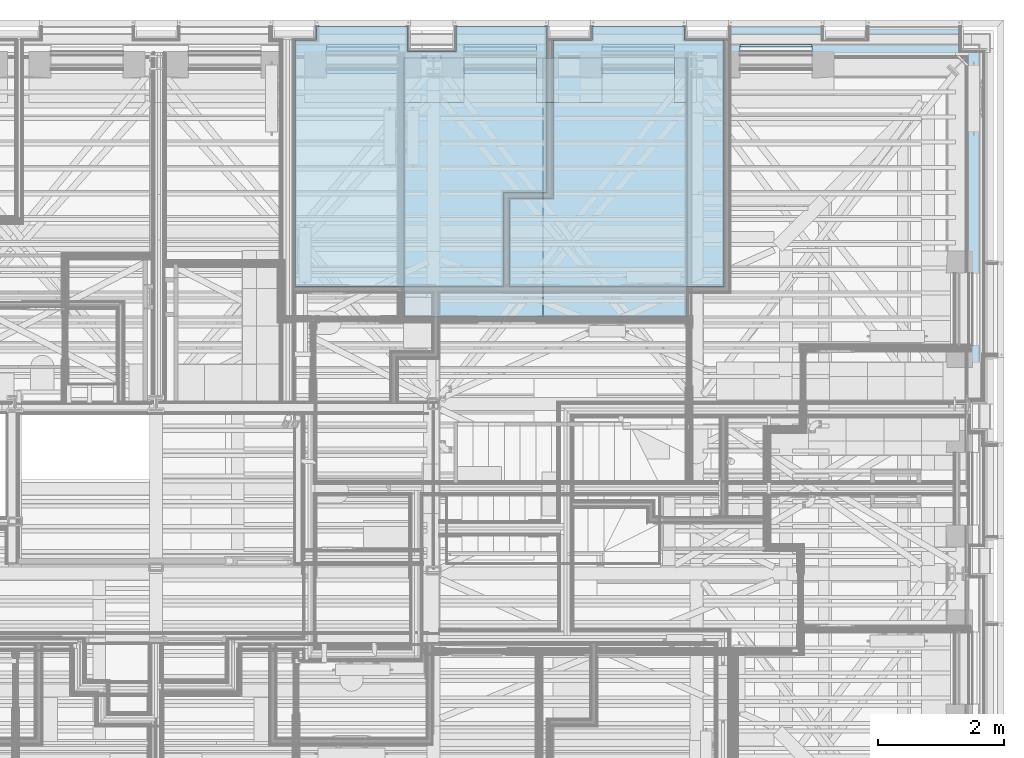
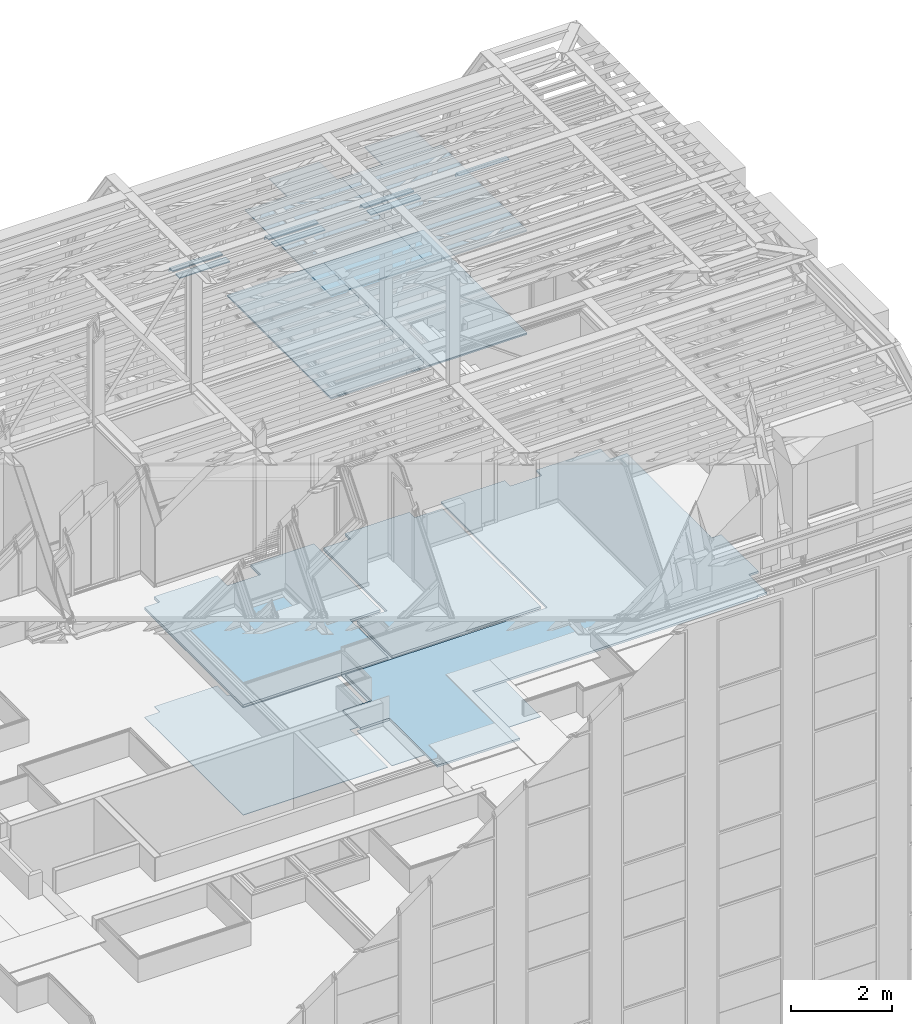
# One storey, part 95 of 183: 25 slabs.
"""IFC2X3 building model written with IfcOpenShell, lengths in metres."""

from ifc_helpers import new_model, entity, si_unit, converted_unit, derived_unit, money_unit, direction, frame, origin_with_axes, place, context, subcontext, project, spatial, faceted_brep, material, type_object, element, save


model = new_model("IFC2X3")

# Units and contexts
model_context = context("Model", 3, precision=1e-05, world=origin_with_axes(), true_north=direction((0.0, 1.0)))
body_context = subcontext(model_context, "Body", "Model", "MODEL_VIEW", scale=1.0)
ifc_project = project(units=[si_unit("LENGTHUNIT", "METRE"), si_unit("AREAUNIT", "SQUARE_METRE"), si_unit("VOLUMEUNIT", "CUBIC_METRE"), si_unit("ABSORBEDDOSEUNIT", "GRAY"), si_unit("AMOUNTOFSUBSTANCEUNIT", "MOLE"), si_unit("DOSEEQUIVALENTUNIT", "SIEVERT"), si_unit("ELECTRICCAPACITANCEUNIT", "FARAD"), si_unit("ELECTRICCHARGEUNIT", "COULOMB"), si_unit("ELECTRICCONDUCTANCEUNIT", "SIEMENS"), si_unit("ELECTRICCURRENTUNIT", "AMPERE"), si_unit("ELECTRICRESISTANCEUNIT", "OHM"), si_unit("ELECTRICVOLTAGEUNIT", "VOLT"), si_unit("ENERGYUNIT", "JOULE"), si_unit("FORCEUNIT", "NEWTON"), si_unit("FREQUENCYUNIT", "HERTZ"), si_unit("ILLUMINANCEUNIT", "LUX"), si_unit("INDUCTANCEUNIT", "HENRY"), si_unit("LUMINOUSFLUXUNIT", "LUMEN"), si_unit("LUMINOUSINTENSITYUNIT", "CANDELA"), si_unit("MAGNETICFLUXDENSITYUNIT", "TESLA"), si_unit("MAGNETICFLUXUNIT", "WEBER"), si_unit("MASSUNIT", "GRAM"), converted_unit("PLANEANGLEUNIT", "degree", entity("IfcReal", 0.0174532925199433), si_unit("PLANEANGLEUNIT", "RADIAN"), dimensions=[0, 0, 0, 0, 0, 0, 0]), si_unit("POWERUNIT", "WATT"), si_unit("PRESSUREUNIT", "PASCAL"), si_unit("RADIOACTIVITYUNIT", "BECQUEREL"), si_unit("SOLIDANGLEUNIT", "STERADIAN"), si_unit("THERMODYNAMICTEMPERATUREUNIT", "KELVIN"), si_unit("TIMEUNIT", "SECOND"), derived_unit("ACCELERATIONUNIT", [(si_unit("LENGTHUNIT", "METRE"), 1), (si_unit("TIMEUNIT", "SECOND"), -2)]), derived_unit("ANGULARVELOCITYUNIT", [(converted_unit("PLANEANGLEUNIT", "degree", entity("IfcReal", 0.0174532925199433), si_unit("PLANEANGLEUNIT", "RADIAN"), dimensions=[0, 0, 0, 0, 0, 0, 0]), 1), (si_unit("TIMEUNIT", "SECOND"), -1)]), derived_unit("CURVATUREUNIT", [(converted_unit("PLANEANGLEUNIT", "degree", entity("IfcReal", 0.0174532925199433), si_unit("PLANEANGLEUNIT", "RADIAN"), dimensions=[0, 0, 0, 0, 0, 0, 0]), 1), (si_unit("LENGTHUNIT", "METRE"), -1)]), derived_unit("DYNAMICVISCOSITYUNIT", [(si_unit("PRESSUREUNIT", "PASCAL"), 1), (si_unit("TIMEUNIT", "SECOND"), 1)]), derived_unit("HEATFLUXDENSITYUNIT", [(si_unit("POWERUNIT", "WATT"), 1), (si_unit("LENGTHUNIT", "METRE"), -2)]), derived_unit("HEATINGVALUEUNIT", [(si_unit("ENERGYUNIT", "JOULE"), 1), (si_unit("MASSUNIT", "GRAM"), -1)]), derived_unit("INTEGERCOUNTRATEUNIT", [(si_unit("TIMEUNIT", "SECOND"), -1)]), derived_unit("IONCONCENTRATIONUNIT", [(si_unit("MASSUNIT", "GRAM"), 1), (si_unit("VOLUMEUNIT", "CUBIC_METRE"), -1)]), derived_unit("ISOTHERMALMOISTURECAPACITYUNIT", [(si_unit("VOLUMEUNIT", "CUBIC_METRE"), 1), (si_unit("MASSUNIT", "GRAM"), -1)]), derived_unit("KINEMATICVISCOSITYUNIT", [(si_unit("AREAUNIT", "SQUARE_METRE"), 1), (si_unit("TIMEUNIT", "SECOND"), -1)]), derived_unit("LINEARFORCEUNIT", [(si_unit("FORCEUNIT", "NEWTON"), 1), (si_unit("LENGTHUNIT", "METRE"), -1)]), derived_unit("LINEARMOMENTUNIT", [(si_unit("FORCEUNIT", "NEWTON"), 1), (si_unit("LENGTHUNIT", "METRE"), -1)]), derived_unit("LINEARSTIFFNESSUNIT", [(si_unit("FORCEUNIT", "NEWTON"), 1), (si_unit("LENGTHUNIT", "METRE"), -1)]), derived_unit("LINEARVELOCITYUNIT", [(si_unit("LENGTHUNIT", "METRE"), 1), (si_unit("TIMEUNIT", "SECOND"), -1)]), derived_unit("LUMINOUSINTENSITYDISTRIBUTIONUNIT", [(si_unit("LUMINOUSINTENSITYUNIT", "CANDELA"), 1), (si_unit("LUMINOUSFLUXUNIT", "LUMEN"), -1)]), derived_unit("MASSDENSITYUNIT", [(si_unit("MASSUNIT", "GRAM"), 1), (si_unit("VOLUMEUNIT", "CUBIC_METRE"), -1)]), derived_unit("MASSFLOWRATEUNIT", [(si_unit("MASSUNIT", "GRAM"), 1), (si_unit("TIMEUNIT", "SECOND"), -1)]), derived_unit("MASSPERLENGTHUNIT", [(si_unit("MASSUNIT", "GRAM"), 1), (si_unit("LENGTHUNIT", "METRE"), -1)]), derived_unit("MODULUSOFELASTICITYUNIT", [(si_unit("FORCEUNIT", "NEWTON"), 1), (si_unit("AREAUNIT", "SQUARE_METRE"), -1)]), derived_unit("MODULUSOFLINEARSUBGRADEREACTIONUNIT", [(si_unit("FORCEUNIT", "NEWTON"), 1), (si_unit("LENGTHUNIT", "METRE"), -2)]), derived_unit("MODULUSOFROTATIONALSUBGRADEREACTIONUNIT", [(si_unit("FORCEUNIT", "NEWTON"), 1), (si_unit("LENGTHUNIT", "METRE"), 1)]), derived_unit("MODULUSOFSUBGRADEREACTIONUNIT", [(si_unit("FORCEUNIT", "NEWTON"), 1), (si_unit("VOLUMEUNIT", "CUBIC_METRE"), -1)]), derived_unit("MOISTUREDIFFUSIVITYUNIT", [(si_unit("VOLUMEUNIT", "CUBIC_METRE"), 1), (si_unit("TIMEUNIT", "SECOND"), -1)]), derived_unit("MOLECULARWEIGHTUNIT", [(si_unit("MASSUNIT", "GRAM"), 1), (si_unit("AMOUNTOFSUBSTANCEUNIT", "MOLE"), -1)]), derived_unit("PLANARFORCEUNIT", [(si_unit("FORCEUNIT", "NEWTON"), 1), (si_unit("LENGTHUNIT", "METRE"), -2)]), derived_unit("ROTATIONALFREQUENCYUNIT", [(si_unit("TIMEUNIT", "SECOND"), -1)]), derived_unit("ROTATIONALMASSUNIT", [(si_unit("MASSUNIT", "GRAM"), 1), (si_unit("LENGTHUNIT", "METRE"), 2)]), derived_unit("ROTATIONALSTIFFNESSUNIT", [(si_unit("FORCEUNIT", "NEWTON"), 1), (si_unit("LENGTHUNIT", "METRE"), 1), (converted_unit("PLANEANGLEUNIT", "degree", entity("IfcReal", 0.0174532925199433), si_unit("PLANEANGLEUNIT", "RADIAN"), dimensions=[0, 0, 0, 0, 0, 0, 0]), -1)]), derived_unit("SECTIONAREAINTEGRALUNIT", [(si_unit("LENGTHUNIT", "METRE"), 5)]), derived_unit("SECTIONMODULUSUNIT", [(si_unit("LENGTHUNIT", "METRE"), 3)]), derived_unit("SHEARMODULUSUNIT", [(si_unit("FORCEUNIT", "NEWTON"), 1), (si_unit("AREAUNIT", "SQUARE_METRE"), -1)]), derived_unit("SOUNDPOWERUNIT", [(si_unit("ENERGYUNIT", "JOULE"), 1), (si_unit("TIMEUNIT", "SECOND"), -1)]), derived_unit("SPECIFICHEATCAPACITYUNIT", [(si_unit("FORCEUNIT", "NEWTON"), 1), (si_unit("MASSUNIT", "GRAM"), -1), (si_unit("THERMODYNAMICTEMPERATUREUNIT", "KELVIN"), -1)]), derived_unit("TEMPERATUREGRADIENTUNIT", [(si_unit("THERMODYNAMICTEMPERATUREUNIT", "KELVIN"), 1), (si_unit("LENGTHUNIT", "METRE"), -1)]), derived_unit("THERMALADMITTANCEUNIT", [(si_unit("POWERUNIT", "WATT"), 1), (si_unit("AREAUNIT", "SQUARE_METRE"), -1), (si_unit("THERMODYNAMICTEMPERATUREUNIT", "KELVIN"), -1)]), derived_unit("THERMALCONDUCTANCEUNIT", [(si_unit("POWERUNIT", "WATT"), 1), (si_unit("LENGTHUNIT", "METRE"), -1), (si_unit("THERMODYNAMICTEMPERATUREUNIT", "KELVIN"), -1)]), derived_unit("THERMALEXPANSIONCOEFFICIENTUNIT", [(si_unit("THERMODYNAMICTEMPERATUREUNIT", "KELVIN"), -1)]), derived_unit("THERMALRESISTANCEUNIT", [(si_unit("AREAUNIT", "SQUARE_METRE"), 1), (si_unit("POWERUNIT", "WATT"), -1)]), derived_unit("THERMALTRANSMITTANCEUNIT", [(si_unit("POWERUNIT", "WATT"), 1), (si_unit("AREAUNIT", "SQUARE_METRE"), -1), (si_unit("THERMODYNAMICTEMPERATUREUNIT", "KELVIN"), -1)]), derived_unit("TORQUEUNIT", [(si_unit("FORCEUNIT", "NEWTON"), 1), (si_unit("LENGTHUNIT", "METRE"), 1)]), derived_unit("VAPORPERMEABILITYUNIT", [(si_unit("MASSUNIT", "GRAM"), 1), (si_unit("TIMEUNIT", "SECOND"), -1)]), derived_unit("VOLUMETRICFLOWRATEUNIT", [(si_unit("VOLUMEUNIT", "CUBIC_METRE"), 1), (si_unit("TIMEUNIT", "SECOND"), -1)]), derived_unit("WARPINGCONSTANTUNIT", [(si_unit("LENGTHUNIT", "METRE"), 6)]), derived_unit("WARPINGMOMENTUNIT", [(si_unit("FORCEUNIT", "NEWTON"), 1), (si_unit("LENGTHUNIT", "METRE"), 2)]), money_unit("GBP")], contexts=[model_context])

# Site, building, storey
site_placement = place(None, origin_with_axes())
site = spatial("IfcSite", under=ifc_project, at=site_placement, Name="Site", CompositionType="ELEMENT")
building_placement = place(site_placement, origin_with_axes())
building = spatial("IfcBuilding", under=site, at=building_placement, Name="Building01", CompositionType="ELEMENT")
storey_placement = place(building_placement, frame((0.0, 0.0, 5.15), z_axis=(0.0, 0.0, 1.0), x_axis=(1.0, 0.0, 0.0)))
storey = spatial("IfcBuildingStorey", under=building, at=storey_placement, Name="1F", CompositionType="ELEMENT", Elevation=5.15)

# Slabs
ifc_material_1 = material(Name="A_BSUK_Carpet-Pile")
slab_type_1 = type_object("IfcSlabType", Name="A-FloorsSlabs A_BSUK_Slabs", PredefinedType="FLOOR")
placement = place(storey_placement, frame((0.0, 0.0, -5.15), z_axis=(0.0, 0.0, 1.0), x_axis=(1.0, 0.0, 0.0)))
element("IfcSlab", 1, at=placement, inside=storey, type_object=slab_type_1, material=ifc_material_1, Name="A-FloorsSlabs A_BSUK_Slabs", ObjectType="CompoundSlabLeaf", context=body_context, shape_type="Brep", body=[
    faceted_brep([(15.708132, 10.665, 5.153), (15.708132, 10.665, 5.165), (15.708132, 14.582, 5.165), (15.708132, 14.582, 5.153), (19.025284, 10.665, 5.153), (19.025284, 10.665, 5.165), (19.025284, 12.159378, 5.153), (19.025284, 12.159378, 5.165), (19.715, 12.159378, 5.153), (19.715, 12.159378, 5.165), (19.715, 14.8, 5.153), (19.715, 14.8, 5.165), (18.268, 14.8, 5.153), (18.268, 14.8, 5.165), (18.268, 14.402, 5.153), (18.268, 14.402, 5.165), (17.502, 14.402, 5.153), (17.502, 14.402, 5.165), (17.502, 14.8, 5.153), (17.502, 14.8, 5.165), (16.055, 14.8, 5.153), (16.055, 14.8, 5.165), (16.055, 14.582, 5.153), (16.055, 14.582, 5.165)], [[[0, 1, 2, 3]], [[4, 5, 1, 0]], [[6, 7, 5, 4]], [[8, 9, 7, 6]], [[10, 11, 9, 8]], [[12, 13, 11, 10]], [[14, 15, 13, 12]], [[16, 17, 15, 14]], [[18, 19, 17, 16]], [[20, 21, 19, 18]], [[22, 23, 21, 20]], [[3, 2, 23, 22]], [[1, 5, 7, 9, 11, 13, 15, 17, 19, 21, 23, 2]], [[3, 22, 20, 18, 16, 14, 12, 10, 8, 6, 4, 0]]]),
])
element("IfcSlab", 2, at=placement, inside=storey, type_object=slab_type_1, material=ifc_material_1, Name="A-FloorsSlabs A_BSUK_Slabs", ObjectType="CompoundSlabLeaf", context=body_context, shape_type="Brep", body=[
    faceted_brep([(19.81, 12.064378, 5.153), (19.81, 12.064378, 5.165), (19.81, 14.582, 5.165), (19.81, 14.582, 5.153), (19.120284, 12.064378, 5.153), (19.120284, 12.064378, 5.165), (19.120284, 10.665, 5.153), (19.120284, 10.665, 5.165), (22.53, 10.665, 5.153), (22.53, 10.665, 5.165), (22.53, 14.582, 5.153), (22.53, 14.582, 5.165), (21.905, 14.582, 5.153), (21.905, 14.582, 5.165), (21.905, 14.8, 5.153), (21.905, 14.8, 5.165), (20.435, 14.8, 5.153), (20.435, 14.8, 5.165), (20.435, 14.582, 5.153), (20.435, 14.582, 5.165)], [[[0, 1, 2, 3]], [[4, 5, 1, 0]], [[6, 7, 5, 4]], [[8, 9, 7, 6]], [[10, 11, 9, 8]], [[12, 13, 11, 10]], [[14, 15, 13, 12]], [[16, 17, 15, 14]], [[18, 19, 17, 16]], [[3, 2, 19, 18]], [[1, 5, 7, 9, 11, 13, 15, 17, 19, 2]], [[3, 18, 16, 14, 12, 10, 8, 6, 4, 0]]]),
])
ifc_material_2 = material(Name="A_BSUK_CeilingSoffitFinishes_Suspended")
element("IfcSlab", 3, at=placement, inside=storey, type_object=slab_type_1, material=ifc_material_2, Name="A-FloorsSlabs A_BSUK_Slabs", ObjectType="CompoundSlabLeaf", context=body_context, shape_type="Brep", body=[
    faceted_brep([(15.708132, 10.665, 7.765), (15.708132, 10.665, 7.78), (15.708132, 14.582, 7.78), (15.708132, 14.582, 7.765), (19.025284, 10.665, 7.765), (19.025284, 10.665, 7.78), (19.025284, 12.159378, 7.765), (19.025284, 12.159378, 7.78), (19.715, 12.159378, 7.765), (19.715, 12.159378, 7.78), (19.715, 14.8, 7.765), (19.715, 14.8, 7.78), (18.268, 14.8, 7.765), (18.268, 14.8, 7.78), (18.268, 14.402, 7.765), (18.268, 14.402, 7.78), (17.502, 14.402, 7.765), (17.502, 14.402, 7.78), (17.502, 14.8, 7.765), (17.502, 14.8, 7.78), (16.055, 14.8, 7.765), (16.055, 14.8, 7.78), (16.055, 14.582, 7.765), (16.055, 14.582, 7.78)], [[[0, 1, 2, 3]], [[4, 5, 1, 0]], [[6, 7, 5, 4]], [[8, 9, 7, 6]], [[10, 11, 9, 8]], [[12, 13, 11, 10]], [[14, 15, 13, 12]], [[16, 17, 15, 14]], [[18, 19, 17, 16]], [[20, 21, 19, 18]], [[22, 23, 21, 20]], [[3, 2, 23, 22]], [[1, 5, 7, 9, 11, 13, 15, 17, 19, 21, 23, 2]], [[3, 22, 20, 18, 16, 14, 12, 10, 8, 6, 4, 0]]]),
])
element("IfcSlab", 4, at=placement, inside=storey, type_object=slab_type_1, material=ifc_material_2, Name="A-FloorsSlabs A_BSUK_Slabs", ObjectType="CompoundSlabLeaf", context=body_context, shape_type="Brep", body=[
    faceted_brep([(19.81, 12.064378, 7.765), (19.81, 12.064378, 7.78), (19.81, 14.582, 7.78), (19.81, 14.582, 7.765), (19.120284, 12.064378, 7.765), (19.120284, 12.064378, 7.78), (19.120284, 10.665, 7.765), (19.120284, 10.665, 7.78), (22.53, 10.665, 7.765), (22.53, 10.665, 7.78), (22.53, 14.582, 7.765), (22.53, 14.582, 7.78), (21.905, 14.582, 7.765), (21.905, 14.582, 7.78), (21.905, 14.8, 7.765), (21.905, 14.8, 7.78), (20.435, 14.8, 7.765), (20.435, 14.8, 7.78), (20.435, 14.582, 7.765), (20.435, 14.582, 7.78)], [[[0, 1, 2, 3]], [[4, 5, 1, 0]], [[6, 7, 5, 4]], [[8, 9, 7, 6]], [[10, 11, 9, 8]], [[12, 13, 11, 10]], [[14, 15, 13, 12]], [[16, 17, 15, 14]], [[18, 19, 17, 16]], [[3, 2, 19, 18]], [[1, 5, 7, 9, 11, 13, 15, 17, 19, 2]], [[3, 18, 16, 14, 12, 10, 8, 6, 4, 0]]]),
])
ifc_material_3 = material(Name="A_BSUK_Steel_Miscellaneous")
slab_5_placement = place(storey_placement, frame((23.929976, 14.324696, 10.802498), z_axis=(0.0, 0.0, 1.0), x_axis=(1.0, 0.0, 0.0)))
element("IfcSlab", 5, at=slab_5_placement, inside=storey, type_object=slab_type_1, material=ifc_material_3, Name="A-FloorsSlabs A_BSUK_Slabs", ObjectType="A-FloorsSlabs A_BSUK_Slabs", context=body_context, shape_type="Brep", body=[
    faceted_brep([(0.0, 0.0, 0.007502), (-1.15, 0.0, 0.007502), (-1.15, 0.0, 0.0), (0.0, 0.0, 0.0), (0.0, 0.001, 0.007502), (-1.15, 0.001, 0.007502), (0.0, 0.0025, 0.002414), (-1.15, 0.0025, 0.002414), (0.0, 0.144228, -0.002556), (-1.15, 0.144228, -0.002556), (0.0, 0.183199, -0.122498), (-1.15, 0.183199, -0.122498), (0.0, 0.183199, -0.127498), (-1.15, 0.183199, -0.127498), (0.0, 0.180699, -0.127498), (-1.15, 0.180699, -0.127498), (0.0, 0.180699, -0.122894), (-1.15, 0.180699, -0.122894), (0.0, 0.142391, -0.004993), (-1.15, 0.142391, -0.004993)], [[[0, 1, 2, 3]], [[4, 5, 1, 0]], [[6, 7, 5, 4]], [[8, 9, 7, 6]], [[10, 11, 9, 8]], [[12, 13, 11, 10]], [[14, 15, 13, 12]], [[16, 17, 15, 14]], [[18, 19, 17, 16]], [[3, 2, 19, 18]], [[1, 5, 7, 9, 11, 13, 15, 17, 19, 2]], [[3, 18, 16, 14, 12, 10, 8, 6, 4, 0]]]),
])
ifc_material_4 = material(Name="A_BSUK_Timber_Miscellaneous")
slab_6_placement = place(storey_placement, frame((21.740024, 14.324696, 10.78), z_axis=(0.0, 0.0, 1.0), x_axis=(1.0, 0.0, 0.0)))
element("IfcSlab", 6, at=slab_6_placement, inside=storey, type_object=slab_type_1, material=ifc_material_4, Name="A-FloorsSlabs A_BSUK_Slabs", ObjectType="A-FloorsSlabs A_BSUK_Slabs", context=body_context, shape_type="Brep", body=[
    faceted_brep([(0.0, 0.0, 0.022498), (-1.15, 0.0, 0.022498), (-1.15, 0.0, 0.0), (0.0, 0.0, 0.0), (0.0, 0.142391, 0.017505), (-1.15, 0.142391, 0.017505), (0.0, 0.148079, 0.0), (-1.15, 0.148079, 0.0)], [[[0, 1, 2, 3]], [[4, 5, 1, 0]], [[6, 7, 5, 4]], [[3, 2, 7, 6]], [[1, 5, 7, 2]], [[3, 6, 4, 0]]]),
])
slab_7_placement = place(storey_placement, frame((21.740024, 14.324696, 10.802498), z_axis=(0.0, 0.0, 1.0), x_axis=(1.0, 0.0, 0.0)))
element("IfcSlab", 7, at=slab_7_placement, inside=storey, type_object=slab_type_1, material=ifc_material_3, Name="A-FloorsSlabs A_BSUK_Slabs", ObjectType="A-FloorsSlabs A_BSUK_Slabs", context=body_context, shape_type="Brep", body=[
    faceted_brep([(0.0, 0.0, 0.007502), (-1.15, 0.0, 0.007502), (-1.15, 0.0, 0.0), (0.0, 0.0, 0.0), (0.0, 0.001, 0.007502), (-1.15, 0.001, 0.007502), (0.0, 0.0025, 0.002414), (-1.15, 0.0025, 0.002414), (0.0, 0.144228, -0.002556), (-1.15, 0.144228, -0.002556), (0.0, 0.183199, -0.122498), (-1.15, 0.183199, -0.122498), (0.0, 0.183199, -0.127498), (-1.15, 0.183199, -0.127498), (0.0, 0.180699, -0.127498), (-1.15, 0.180699, -0.127498), (0.0, 0.180699, -0.122894), (-1.15, 0.180699, -0.122894), (0.0, 0.142391, -0.004993), (-1.15, 0.142391, -0.004993)], [[[0, 1, 2, 3]], [[4, 5, 1, 0]], [[6, 7, 5, 4]], [[8, 9, 7, 6]], [[10, 11, 9, 8]], [[12, 13, 11, 10]], [[14, 15, 13, 12]], [[16, 17, 15, 14]], [[18, 19, 17, 16]], [[3, 2, 19, 18]], [[1, 5, 7, 9, 11, 13, 15, 17, 19, 2]], [[3, 18, 16, 14, 12, 10, 8, 6, 4, 0]]]),
])
slab_8_placement = place(storey_placement, frame((19.550024, 14.324696, 10.78), z_axis=(0.0, 0.0, 1.0), x_axis=(1.0, 0.0, 0.0)))
element("IfcSlab", 8, at=slab_8_placement, inside=storey, type_object=slab_type_1, material=ifc_material_4, Name="A-FloorsSlabs A_BSUK_Slabs", ObjectType="A-FloorsSlabs A_BSUK_Slabs", context=body_context, shape_type="Brep", body=[
    faceted_brep([(0.0, 0.0, 0.022498), (-1.15, 0.0, 0.022498), (-1.15, 0.0, 0.0), (0.0, 0.0, 0.0), (0.0, 0.142391, 0.017505), (-1.15, 0.142391, 0.017505), (0.0, 0.148079, 0.0), (-1.15, 0.148079, 0.0)], [[[0, 1, 2, 3]], [[4, 5, 1, 0]], [[6, 7, 5, 4]], [[3, 2, 7, 6]], [[1, 5, 7, 2]], [[3, 6, 4, 0]]]),
])
slab_9_placement = place(storey_placement, frame((19.550024, 14.324696, 10.802498), z_axis=(0.0, 0.0, 1.0), x_axis=(1.0, 0.0, 0.0)))
element("IfcSlab", 9, at=slab_9_placement, inside=storey, type_object=slab_type_1, material=ifc_material_3, Name="A-FloorsSlabs A_BSUK_Slabs", ObjectType="A-FloorsSlabs A_BSUK_Slabs", context=body_context, shape_type="Brep", body=[
    faceted_brep([(0.0, 0.0, 0.007502), (-1.15, 0.0, 0.007502), (-1.15, 0.0, 0.0), (0.0, 0.0, 0.0), (0.0, 0.001, 0.007502), (-1.15, 0.001, 0.007502), (0.0, 0.0025, 0.002414), (-1.15, 0.0025, 0.002414), (0.0, 0.144228, -0.002556), (-1.15, 0.144228, -0.002556), (0.0, 0.183199, -0.122498), (-1.15, 0.183199, -0.122498), (0.0, 0.183199, -0.127498), (-1.15, 0.183199, -0.127498), (0.0, 0.180699, -0.127498), (-1.15, 0.180699, -0.127498), (0.0, 0.180699, -0.122894), (-1.15, 0.180699, -0.122894), (0.0, 0.142391, -0.004993), (-1.15, 0.142391, -0.004993)], [[[0, 1, 2, 3]], [[4, 5, 1, 0]], [[6, 7, 5, 4]], [[8, 9, 7, 6]], [[10, 11, 9, 8]], [[12, 13, 11, 10]], [[14, 15, 13, 12]], [[16, 17, 15, 14]], [[18, 19, 17, 16]], [[3, 2, 19, 18]], [[1, 5, 7, 9, 11, 13, 15, 17, 19, 2]], [[3, 18, 16, 14, 12, 10, 8, 6, 4, 0]]]),
])
slab_10_placement = place(storey_placement, frame((17.360024, 14.324696, 10.78), z_axis=(0.0, 0.0, 1.0), x_axis=(1.0, 0.0, 0.0)))
element("IfcSlab", 10, at=slab_10_placement, inside=storey, type_object=slab_type_1, material=ifc_material_4, Name="A-FloorsSlabs A_BSUK_Slabs", ObjectType="A-FloorsSlabs A_BSUK_Slabs", context=body_context, shape_type="Brep", body=[
    faceted_brep([(0.0, 0.0, 0.022498), (-1.15, 0.0, 0.022498), (-1.15, 0.0, 0.0), (0.0, 0.0, 0.0), (0.0, 0.142391, 0.017505), (-1.15, 0.142391, 0.017505), (0.0, 0.148079, 0.0), (-1.15, 0.148079, 0.0)], [[[0, 1, 2, 3]], [[4, 5, 1, 0]], [[6, 7, 5, 4]], [[3, 2, 7, 6]], [[1, 5, 7, 2]], [[3, 6, 4, 0]]]),
])
slab_11_placement = place(storey_placement, frame((17.360024, 14.324696, 10.802498), z_axis=(0.0, 0.0, 1.0), x_axis=(1.0, 0.0, 0.0)))
element("IfcSlab", 11, at=slab_11_placement, inside=storey, type_object=slab_type_1, material=ifc_material_3, Name="A-FloorsSlabs A_BSUK_Slabs", ObjectType="A-FloorsSlabs A_BSUK_Slabs", context=body_context, shape_type="Brep", body=[
    faceted_brep([(0.0, 0.0, 0.007502), (-1.15, 0.0, 0.007502), (-1.15, 0.0, 0.0), (0.0, 0.0, 0.0), (0.0, 0.001, 0.007502), (-1.15, 0.001, 0.007502), (0.0, 0.0025, 0.002414), (-1.15, 0.0025, 0.002414), (0.0, 0.144228, -0.002556), (-1.15, 0.144228, -0.002556), (0.0, 0.183199, -0.122498), (-1.15, 0.183199, -0.122498), (0.0, 0.183199, -0.127498), (-1.15, 0.183199, -0.127498), (0.0, 0.180699, -0.127498), (-1.15, 0.180699, -0.127498), (0.0, 0.180699, -0.122894), (-1.15, 0.180699, -0.122894), (0.0, 0.142391, -0.004993), (-1.15, 0.142391, -0.004993)], [[[0, 1, 2, 3]], [[4, 5, 1, 0]], [[6, 7, 5, 4]], [[8, 9, 7, 6]], [[10, 11, 9, 8]], [[12, 13, 11, 10]], [[14, 15, 13, 12]], [[16, 17, 15, 14]], [[18, 19, 17, 16]], [[3, 2, 19, 18]], [[1, 5, 7, 9, 11, 13, 15, 17, 19, 2]], [[3, 18, 16, 14, 12, 10, 8, 6, 4, 0]]]),
])
element("IfcSlab", 12, at=placement, inside=storey, type_object=slab_type_1, material=ifc_material_2, Name="A-FloorsSlabs A_BSUK_Slabs", ObjectType="CompoundSlabLeaf", context=body_context, shape_type="Brep", body=[
    faceted_brep([(17.439976, 10.179939, 17.423), (17.439976, 10.179939, 17.438), (17.439976, 13.587598, 17.438), (17.439976, 13.587598, 17.423), (19.649976, 10.179939, 17.423), (19.649976, 10.179939, 17.438), (19.649976, 13.587598, 17.423), (19.649976, 13.587598, 17.438), (19.549976, 13.587598, 17.423), (19.549976, 13.587598, 17.438), (19.549976, 14.300061, 17.423), (19.549976, 14.300061, 17.438), (18.400024, 14.300061, 17.423), (18.400024, 14.300061, 17.438), (18.400024, 13.587598, 17.423), (18.400024, 13.587598, 17.438)], [[[0, 1, 2, 3]], [[4, 5, 1, 0]], [[6, 7, 5, 4]], [[8, 9, 7, 6]], [[10, 11, 9, 8]], [[12, 13, 11, 10]], [[14, 15, 13, 12]], [[3, 2, 15, 14]], [[1, 5, 7, 9, 11, 13, 15, 2]], [[3, 14, 12, 10, 8, 6, 4, 0]]]),
])
element("IfcSlab", 13, at=placement, inside=storey, type_object=slab_type_1, material=ifc_material_2, Name="A-FloorsSlabs A_BSUK_Slabs", ObjectType="CompoundSlabLeaf", context=body_context, shape_type="Brep", body=[
    faceted_brep([(19.649976, 10.179939, 17.423), (19.649976, 10.179939, 17.438), (19.649976, 13.587598, 17.438), (19.649976, 13.587598, 17.423), (21.939976, 10.179939, 17.423), (21.939976, 10.179939, 17.438), (21.939976, 13.587598, 17.423), (21.939976, 13.587598, 17.438), (21.739976, 13.587598, 17.423), (21.739976, 13.587598, 17.438), (21.739976, 14.300061, 17.423), (21.739976, 14.300061, 17.438), (20.590024, 14.300061, 17.423), (20.590024, 14.300061, 17.438), (20.590024, 13.587598, 17.423), (20.590024, 13.587598, 17.438)], [[[0, 1, 2, 3]], [[4, 5, 1, 0]], [[6, 7, 5, 4]], [[8, 9, 7, 6]], [[10, 11, 9, 8]], [[12, 13, 11, 10]], [[14, 15, 13, 12]], [[3, 2, 15, 14]], [[1, 5, 7, 9, 11, 13, 15, 2]], [[3, 14, 12, 10, 8, 6, 4, 0]]]),
])
ifc_material_5 = material(Name="A_BSUK_ExpandedPolystyreneBoards")
element("IfcSlab", 14, at=placement, inside=storey, type_object=slab_type_1, material=ifc_material_5, Name="A-FloorsSlabs A_BSUK_Slabs", ObjectType="CompoundSlabLeaf", context=body_context, shape_type="Brep", body=[
    faceted_brep([(17.439976, 10.179939, 14.92), (17.439976, 10.179939, 14.952), (17.439976, 14.2962, 14.952), (17.439976, 14.2962, 14.92), (19.649976, 10.179939, 14.92), (19.649976, 10.179939, 14.952), (19.649976, 14.2962, 14.92), (19.649976, 14.2962, 14.952), (19.549976, 14.2962, 14.92), (19.549976, 14.2962, 14.952), (18.400024, 14.2962, 14.92), (18.400024, 14.2962, 14.952)], [[[0, 1, 2, 3]], [[4, 5, 1, 0]], [[6, 7, 5, 4]], [[8, 9, 7, 6]], [[10, 11, 9, 8]], [[3, 2, 11, 10]], [[1, 5, 7, 9, 11, 2]], [[3, 10, 8, 6, 4, 0]]]),
])
element("IfcSlab", 15, at=placement, inside=storey, type_object=slab_type_1, material=ifc_material_5, Name="A-FloorsSlabs A_BSUK_Slabs", ObjectType="CompoundSlabLeaf", context=body_context, shape_type="Brep", body=[
    faceted_brep([(19.649976, 10.179939, 14.92), (19.649976, 10.179939, 14.952), (19.649976, 14.2962, 14.952), (19.649976, 14.2962, 14.92), (21.939976, 10.179939, 14.92), (21.939976, 10.179939, 14.952), (21.939976, 14.2962, 14.92), (21.939976, 14.2962, 14.952), (21.739976, 14.2962, 14.92), (21.739976, 14.2962, 14.952), (20.590024, 14.2962, 14.92), (20.590024, 14.2962, 14.952)], [[[0, 1, 2, 3]], [[4, 5, 1, 0]], [[6, 7, 5, 4]], [[8, 9, 7, 6]], [[10, 11, 9, 8]], [[3, 2, 11, 10]], [[1, 5, 7, 9, 11, 2]], [[3, 10, 8, 6, 4, 0]]]),
])
element("IfcSlab", 16, at=placement, inside=storey, type_object=slab_type_1, material=ifc_material_4, Name="A-FloorsSlabs A_BSUK_Slabs", ObjectType="CompoundSlabLeaf", context=body_context, shape_type="Brep", body=[
    faceted_brep([(21.740024, 14.224661, 15.93), (21.740024, 14.224661, 15.955), (21.740024, 14.050061, 15.955), (21.740024, 14.050061, 15.93), (20.590024, 14.224661, 15.93), (20.590024, 14.224661, 15.955), (20.590024, 14.050062, 15.93), (20.590024, 14.050062, 15.955)], [[[0, 1, 2, 3]], [[4, 5, 1, 0]], [[6, 7, 5, 4]], [[3, 2, 7, 6]], [[1, 5, 7, 2]], [[3, 6, 4, 0]]]),
])
element("IfcSlab", 17, at=placement, inside=storey, type_object=slab_type_1, material=ifc_material_4, Name="A-FloorsSlabs A_BSUK_Slabs", ObjectType="CompoundSlabLeaf", context=body_context, shape_type="Brep", body=[
    faceted_brep([(19.550024, 14.224661, 15.93), (19.550024, 14.224661, 15.955), (19.550024, 14.050061, 15.955), (19.550024, 14.050061, 15.93), (18.400024, 14.224661, 15.93), (18.400024, 14.224661, 15.955), (18.400024, 14.050062, 15.93), (18.400024, 14.050062, 15.955)], [[[0, 1, 2, 3]], [[4, 5, 1, 0]], [[6, 7, 5, 4]], [[3, 2, 7, 6]], [[1, 5, 7, 2]], [[3, 6, 4, 0]]]),
])
element("IfcSlab", 18, at=placement, inside=storey, type_object=slab_type_1, material=ifc_material_4, Name="A-FloorsSlabs A_BSUK_Slabs", ObjectType="CompoundSlabLeaf", context=body_context, shape_type="Brep", body=[
    faceted_brep([(17.360024, 14.224661, 15.93), (17.360024, 14.224661, 15.955), (17.360024, 14.050061, 15.955), (17.360024, 14.050061, 15.93), (16.210024, 14.224661, 15.93), (16.210024, 14.224661, 15.955), (16.210024, 14.050062, 15.93), (16.210024, 14.050062, 15.955)], [[[0, 1, 2, 3]], [[4, 5, 1, 0]], [[6, 7, 5, 4]], [[3, 2, 7, 6]], [[1, 5, 7, 2]], [[3, 6, 4, 0]]]),
])
element("IfcSlab", 19, at=placement, inside=storey, type_object=slab_type_1, material=ifc_material_2, Name="A-FloorsSlabs A_BSUK_Slabs", ObjectType="CompoundSlabLeaf", context=body_context, shape_type="Brep", body=[
    faceted_brep([(17.439976, 10.179939, 17.438), (17.439976, 10.179939, 17.453), (17.439976, 13.587598, 17.453), (17.439976, 13.587598, 17.438), (19.649976, 10.179939, 17.438), (19.649976, 10.179939, 17.453), (19.649976, 13.587598, 17.438), (19.649976, 13.587598, 17.453), (19.549976, 13.587598, 17.438), (19.549976, 13.587598, 17.453), (19.549976, 14.300061, 17.438), (19.549976, 14.300061, 17.453), (18.400024, 14.300061, 17.438), (18.400024, 14.300061, 17.453), (18.400024, 13.587598, 17.438), (18.400024, 13.587598, 17.453)], [[[0, 1, 2, 3]], [[4, 5, 1, 0]], [[6, 7, 5, 4]], [[8, 9, 7, 6]], [[10, 11, 9, 8]], [[12, 13, 11, 10]], [[14, 15, 13, 12]], [[3, 2, 15, 14]], [[1, 5, 7, 9, 11, 13, 15, 2]], [[3, 14, 12, 10, 8, 6, 4, 0]]]),
])
element("IfcSlab", 20, at=placement, inside=storey, type_object=slab_type_1, material=ifc_material_2, Name="A-FloorsSlabs A_BSUK_Slabs", ObjectType="CompoundSlabLeaf", context=body_context, shape_type="Brep", body=[
    faceted_brep([(19.649976, 10.179939, 17.438), (19.649976, 10.179939, 17.453), (19.649976, 13.587598, 17.453), (19.649976, 13.587598, 17.438), (21.939976, 10.179939, 17.438), (21.939976, 10.179939, 17.453), (21.939976, 13.587598, 17.438), (21.939976, 13.587598, 17.453), (21.739976, 13.587598, 17.438), (21.739976, 13.587598, 17.453), (21.739976, 14.300061, 17.438), (21.739976, 14.300061, 17.453), (20.590024, 14.300061, 17.438), (20.590024, 14.300061, 17.453), (20.590024, 13.587598, 17.438), (20.590024, 13.587598, 17.453)], [[[0, 1, 2, 3]], [[4, 5, 1, 0]], [[6, 7, 5, 4]], [[8, 9, 7, 6]], [[10, 11, 9, 8]], [[12, 13, 11, 10]], [[14, 15, 13, 12]], [[3, 2, 15, 14]], [[1, 5, 7, 9, 11, 13, 15, 2]], [[3, 14, 12, 10, 8, 6, 4, 0]]]),
])
slab_type_2 = type_object("IfcSlabType", Name="A-FloorsSlabs A_BSUK_ExpandedPolystyreneBoards", PredefinedType="FLOOR")
element("IfcSlab", 21, at=placement, inside=storey, type_object=slab_type_2, material=ifc_material_5, Name="A-FloorsSlabs A_BSUK_ExpandedPolystyreneBoards", ObjectType="CompoundSlabLeaf", context=body_context, shape_type="Brep", body=[
    faceted_brep([(18.395, 6.93, 7.78), (18.395, 6.93, 7.83), (18.0, 6.93, 7.83), (18.0, 6.93, 7.78), (19.395, 6.93, 7.78), (19.395, 6.93, 7.83), (19.897661, 6.93, 7.78), (19.897661, 6.93, 7.83), (19.897661, 8.82, 7.78), (19.897661, 8.82, 7.83), (26.432, 8.82, 7.78), (26.432, 8.82, 7.83), (26.432, 8.848, 7.78), (26.432, 8.848, 7.83), (26.662, 8.848, 7.78), (26.662, 8.848, 7.83), (26.662, 9.56218, 7.78), (26.662, 9.56218, 7.83), (26.88, 9.56218, 7.78), (26.88, 9.56218, 7.83), (26.88, 11.03218, 7.78), (26.88, 11.03218, 7.83), (26.662, 11.03218, 7.78), (26.662, 11.03218, 7.83), (26.662, 14.402, 7.78), (26.662, 14.402, 7.83), (26.285, 14.402, 7.78), (26.285, 14.402, 7.83), (26.285, 14.8, 7.78), (26.285, 14.8, 7.83), (24.815, 14.8, 7.78), (24.815, 14.8, 7.83), (24.815, 14.582, 7.78), (24.815, 14.582, 7.83), (24.095, 14.582, 7.78), (24.095, 14.582, 7.83), (24.095, 14.8, 7.78), (24.095, 14.8, 7.83), (22.625, 14.8, 7.78), (22.625, 14.8, 7.83), (22.625, 10.57, 7.78), (22.625, 10.57, 7.83), (19.891284, 10.57, 7.78), (19.891284, 10.57, 7.83), (19.044398, 10.57, 7.78), (19.044398, 10.57, 7.83), (18.0, 10.57, 7.78), (18.0, 10.57, 7.83), (18.0, 9.525, 7.78), (18.0, 9.525, 7.83), (17.333132, 9.525, 7.78), (17.333132, 9.525, 7.83), (17.333132, 8.82, 7.78), (17.333132, 8.82, 7.83), (18.0, 8.82, 7.78), (18.0, 8.82, 7.83), (18.0, 7.82088, 7.78), (18.0, 7.82088, 7.83), (18.0, 7.02888, 7.78), (18.0, 7.02888, 7.83)], [[[0, 1, 2, 3]], [[4, 5, 1, 0]], [[6, 7, 5, 4]], [[8, 9, 7, 6]], [[10, 11, 9, 8]], [[12, 13, 11, 10]], [[14, 15, 13, 12]], [[16, 17, 15, 14]], [[18, 19, 17, 16]], [[20, 21, 19, 18]], [[22, 23, 21, 20]], [[24, 25, 23, 22]], [[26, 27, 25, 24]], [[28, 29, 27, 26]], [[30, 31, 29, 28]], [[32, 33, 31, 30]], [[34, 35, 33, 32]], [[36, 37, 35, 34]], [[38, 39, 37, 36]], [[40, 41, 39, 38]], [[42, 43, 41, 40]], [[44, 45, 43, 42]], [[46, 47, 45, 44]], [[48, 49, 47, 46]], [[50, 51, 49, 48]], [[52, 53, 51, 50]], [[54, 55, 53, 52]], [[56, 57, 55, 54]], [[58, 59, 57, 56]], [[3, 2, 59, 58]], [[1, 5, 7, 9, 11, 13, 15, 17, 19, 21, 23, 25, 27, 29, 31, 33, 35, 37, 39, 41, 43, 45, 47, 49, 51, 53, 55, 57, 59, 2]], [[3, 58, 56, 54, 52, 50, 48, 46, 44, 42, 40, 38, 36, 34, 32, 30, 28, 26, 24, 22, 20, 18, 16, 14, 12, 10, 8, 6, 4, 0]]]),
])
element("IfcSlab", 22, at=placement, inside=storey, type_object=slab_type_2, material=ifc_material_5, Name="A-FloorsSlabs A_BSUK_ExpandedPolystyreneBoards", ObjectType="CompoundSlabLeaf", context=body_context, shape_type="Brep", body=[
    faceted_brep([(15.708132, 10.665, 7.78), (15.708132, 10.665, 7.83), (15.708132, 14.582, 7.83), (15.708132, 14.582, 7.78), (19.025284, 10.665, 7.78), (19.025284, 10.665, 7.83), (19.025284, 12.159378, 7.78), (19.025284, 12.159378, 7.83), (19.715, 12.159378, 7.78), (19.715, 12.159378, 7.83), (19.715, 14.8, 7.78), (19.715, 14.8, 7.83), (18.268, 14.8, 7.78), (18.268, 14.8, 7.83), (18.268, 14.402, 7.78), (18.268, 14.402, 7.83), (17.502, 14.402, 7.78), (17.502, 14.402, 7.83), (17.502, 14.8, 7.78), (17.502, 14.8, 7.83), (16.055, 14.8, 7.78), (16.055, 14.8, 7.83), (16.055, 14.582, 7.78), (16.055, 14.582, 7.83)], [[[0, 1, 2, 3]], [[4, 5, 1, 0]], [[6, 7, 5, 4]], [[8, 9, 7, 6]], [[10, 11, 9, 8]], [[12, 13, 11, 10]], [[14, 15, 13, 12]], [[16, 17, 15, 14]], [[18, 19, 17, 16]], [[20, 21, 19, 18]], [[22, 23, 21, 20]], [[3, 2, 23, 22]], [[1, 5, 7, 9, 11, 13, 15, 17, 19, 21, 23, 2]], [[3, 22, 20, 18, 16, 14, 12, 10, 8, 6, 4, 0]]]),
])
element("IfcSlab", 23, at=placement, inside=storey, type_object=slab_type_2, material=ifc_material_5, Name="A-FloorsSlabs A_BSUK_ExpandedPolystyreneBoards", ObjectType="CompoundSlabLeaf", context=body_context, shape_type="Brep", body=[
    faceted_brep([(19.81, 12.064378, 7.78), (19.81, 12.064378, 7.83), (19.81, 14.582, 7.83), (19.81, 14.582, 7.78), (19.120284, 12.064378, 7.78), (19.120284, 12.064378, 7.83), (19.120284, 10.665, 7.78), (19.120284, 10.665, 7.83), (22.53, 10.665, 7.78), (22.53, 10.665, 7.83), (22.53, 14.582, 7.78), (22.53, 14.582, 7.83), (21.905, 14.582, 7.78), (21.905, 14.582, 7.83), (21.905, 14.8, 7.78), (21.905, 14.8, 7.83), (20.435, 14.8, 7.78), (20.435, 14.8, 7.83), (20.435, 14.582, 7.78), (20.435, 14.582, 7.83)], [[[0, 1, 2, 3]], [[4, 5, 1, 0]], [[6, 7, 5, 4]], [[8, 9, 7, 6]], [[10, 11, 9, 8]], [[12, 13, 11, 10]], [[14, 15, 13, 12]], [[16, 17, 15, 14]], [[18, 19, 17, 16]], [[3, 2, 19, 18]], [[1, 5, 7, 9, 11, 13, 15, 17, 19, 2]], [[3, 18, 16, 14, 12, 10, 8, 6, 4, 0]]]),
])
slab_type_3 = type_object("IfcSlabType", Name="A-Finishes A_BSUK_Carpet-Pile", PredefinedType="FLOOR")
element("IfcSlab", 24, at=placement, inside=storey, type_object=slab_type_3, material=ifc_material_1, Name="A-Finishes A_BSUK_Carpet-Pile", ObjectType="CompoundSlabLeaf", context=body_context, shape_type="Brep", body=[
    faceted_brep([(17.439976, 10.179939, 14.952), (17.439976, 10.179939, 14.964), (17.439976, 14.2962, 14.964), (17.439976, 14.2962, 14.952), (19.649976, 10.179939, 14.952), (19.649976, 10.179939, 14.964), (19.649976, 14.2962, 14.952), (19.649976, 14.2962, 14.964), (19.549976, 14.2962, 14.952), (19.549976, 14.2962, 14.964), (18.400024, 14.2962, 14.952), (18.400024, 14.2962, 14.964)], [[[0, 1, 2, 3]], [[4, 5, 1, 0]], [[6, 7, 5, 4]], [[8, 9, 7, 6]], [[10, 11, 9, 8]], [[3, 2, 11, 10]], [[1, 5, 7, 9, 11, 2]], [[3, 10, 8, 6, 4, 0]]]),
])
element("IfcSlab", 25, at=placement, inside=storey, type_object=slab_type_3, material=ifc_material_1, Name="A-Finishes A_BSUK_Carpet-Pile", ObjectType="CompoundSlabLeaf", context=body_context, shape_type="Brep", body=[
    faceted_brep([(19.649976, 10.179939, 14.952), (19.649976, 10.179939, 14.964), (19.649976, 14.2962, 14.964), (19.649976, 14.2962, 14.952), (21.939976, 10.179939, 14.952), (21.939976, 10.179939, 14.964), (21.939976, 14.2962, 14.952), (21.939976, 14.2962, 14.964), (21.739976, 14.2962, 14.952), (21.739976, 14.2962, 14.964), (20.590024, 14.2962, 14.952), (20.590024, 14.2962, 14.964)], [[[0, 1, 2, 3]], [[4, 5, 1, 0]], [[6, 7, 5, 4]], [[8, 9, 7, 6]], [[10, 11, 9, 8]], [[3, 2, 11, 10]], [[1, 5, 7, 9, 11, 2]], [[3, 10, 8, 6, 4, 0]]]),
])

save(model, "model.ifc")
